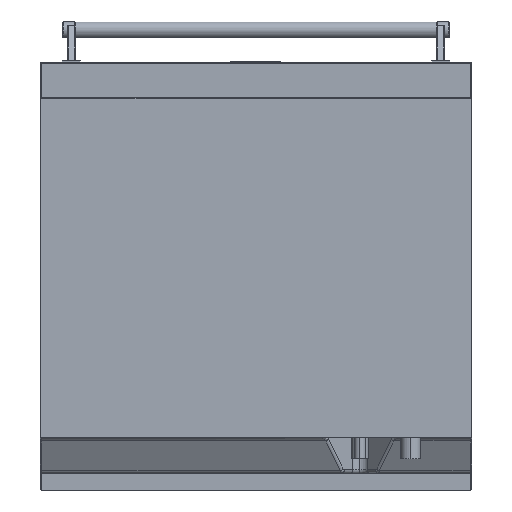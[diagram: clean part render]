
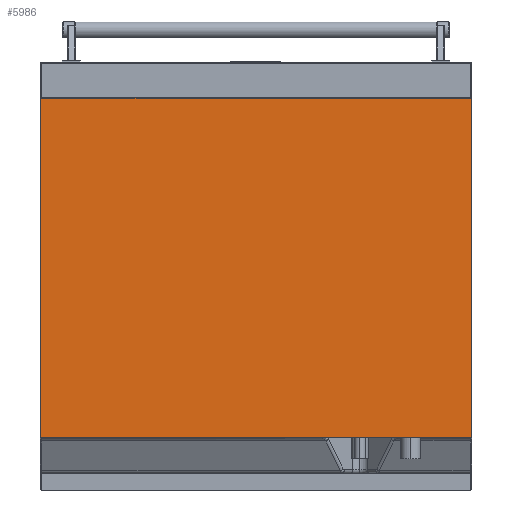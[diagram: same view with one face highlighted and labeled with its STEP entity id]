
A CAD part, front view. The second image highlights one B-rep face of the part: STEP entity #5986.
In plain terms, the highlighted planar face has unit normal (0, -1, 0).
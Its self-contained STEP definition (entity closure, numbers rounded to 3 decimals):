
#2 = AXIS2_PLACEMENT_3D ( 'NONE', #12824, #10272, #15126 ) ;
#467 = VERTEX_POINT ( 'NONE', #12425 ) ;
#1213 = VECTOR ( 'NONE', #12715, 1000. ) ;
#1513 = AXIS2_PLACEMENT_3D ( 'NONE', #7428, #11075, #13622 ) ;
#1782 = CARTESIAN_POINT ( 'NONE',  ( -299., 0., 52. ) ) ;
#2101 = VECTOR ( 'NONE', #14835, 1000. ) ;
#2208 = AXIS2_PLACEMENT_3D ( 'NONE', #7809, #4252, #11696 ) ;
#2441 = CARTESIAN_POINT ( 'NONE',  ( -299., 0., 570. ) ) ;
#2548 = ORIENTED_EDGE ( 'NONE', *, *, #16078, .T. ) ;
#2711 = VERTEX_POINT ( 'NONE', #8773 ) ;
#2754 = FACE_OUTER_BOUND ( 'NONE', #4821, .T. ) ;
#3548 = CARTESIAN_POINT ( 'NONE',  ( 299., 0., 52. ) ) ;
#3657 = DIRECTION ( 'NONE',  ( 0., 0., -1. ) ) ;
#3699 = ORIENTED_EDGE ( 'NONE', *, *, #3798, .T. ) ;
#3798 = EDGE_CURVE ( 'NONE', #13711, #2711, #10743, .T. ) ;
#3928 = PLANE ( 'NONE',  #2208 ) ;
#4072 = DIRECTION ( 'NONE',  ( 0., 0., -1. ) ) ;
#4227 = ORIENTED_EDGE ( 'NONE', *, *, #6323, .F. ) ;
#4252 = DIRECTION ( 'NONE',  ( 0., -1., 0. ) ) ;
#4821 = EDGE_LOOP ( 'NONE', ( #15896, #2548, #4227, #16052, #14838, #7866, #3699 ) ) ;
#5108 = VECTOR ( 'NONE', #3657, 1000. ) ;
#5246 = CARTESIAN_POINT ( 'NONE',  ( -299., 0., 50. ) ) ;
#5289 = CARTESIAN_POINT ( 'NONE',  ( 297., 0., 52. ) ) ;
#5565 = CARTESIAN_POINT ( 'NONE',  ( -297., 0., 520. ) ) ;
#5857 = CARTESIAN_POINT ( 'NONE',  ( 297., 0., 50. ) ) ;
#5986 = ADVANCED_FACE ( 'NONE', ( #2754 ), #3928, .T. ) ;
#6323 = EDGE_CURVE ( 'NONE', #467, #12136, #13569, .T. ) ;
#7428 = CARTESIAN_POINT ( 'NONE',  ( -297., 0., 518. ) ) ;
#7809 = CARTESIAN_POINT ( 'NONE',  ( -299., 0., 570. ) ) ;
#7866 = ORIENTED_EDGE ( 'NONE', *, *, #10334, .T. ) ;
#8490 = VECTOR ( 'NONE', #15917, 1000. ) ;
#8773 = CARTESIAN_POINT ( 'NONE',  ( -297., 0., 50. ) ) ;
#8906 = VERTEX_POINT ( 'NONE', #5857 ) ;
#9204 = CARTESIAN_POINT ( 'NONE',  ( 1118.527, 0., 520. ) ) ;
#9868 = CARTESIAN_POINT ( 'NONE',  ( 299., 0., 570. ) ) ;
#10148 = VERTEX_POINT ( 'NONE', #5565 ) ;
#10272 = DIRECTION ( 'NONE',  ( 0., -1., 0. ) ) ;
#10334 = EDGE_CURVE ( 'NONE', #14414, #13711, #13688, .T. ) ;
#10427 = EDGE_CURVE ( 'NONE', #2711, #8906, #12881, .T. ) ;
#10743 = CIRCLE ( 'NONE', #2, 2. ) ;
#11075 = DIRECTION ( 'NONE',  ( 0., -1., 0. ) ) ;
#11303 = CIRCLE ( 'NONE', #14701, 2. ) ;
#11696 = DIRECTION ( 'NONE',  ( 0., 0., -1. ) ) ;
#12083 = EDGE_CURVE ( 'NONE', #10148, #14414, #14076, .T. ) ;
#12136 = VERTEX_POINT ( 'NONE', #3548 ) ;
#12425 = CARTESIAN_POINT ( 'NONE',  ( 299., 0., 520. ) ) ;
#12715 = DIRECTION ( 'NONE',  ( 1., 0., 0. ) ) ;
#12824 = CARTESIAN_POINT ( 'NONE',  ( -297., 0., 52. ) ) ;
#12881 = LINE ( 'NONE', #5246, #1213 ) ;
#12992 = LINE ( 'NONE', #9204, #2101 ) ;
#13569 = LINE ( 'NONE', #9868, #5108 ) ;
#13622 = DIRECTION ( 'NONE',  ( 0., 0., -1. ) ) ;
#13688 = LINE ( 'NONE', #2441, #8490 ) ;
#13711 = VERTEX_POINT ( 'NONE', #1782 ) ;
#14076 = CIRCLE ( 'NONE', #1513, 2. ) ;
#14414 = VERTEX_POINT ( 'NONE', #15458 ) ;
#14701 = AXIS2_PLACEMENT_3D ( 'NONE', #5289, #15779, #4072 ) ;
#14835 = DIRECTION ( 'NONE',  ( -1., 0., 0. ) ) ;
#14838 = ORIENTED_EDGE ( 'NONE', *, *, #12083, .T. ) ;
#15126 = DIRECTION ( 'NONE',  ( 0., 0., -1. ) ) ;
#15458 = CARTESIAN_POINT ( 'NONE',  ( -299., 0., 518. ) ) ;
#15572 = EDGE_CURVE ( 'NONE', #467, #10148, #12992, .T. ) ;
#15779 = DIRECTION ( 'NONE',  ( 0., -1., 0. ) ) ;
#15896 = ORIENTED_EDGE ( 'NONE', *, *, #10427, .T. ) ;
#15917 = DIRECTION ( 'NONE',  ( 0., 0., -1. ) ) ;
#16052 = ORIENTED_EDGE ( 'NONE', *, *, #15572, .T. ) ;
#16078 = EDGE_CURVE ( 'NONE', #8906, #12136, #11303, .T. ) ;
